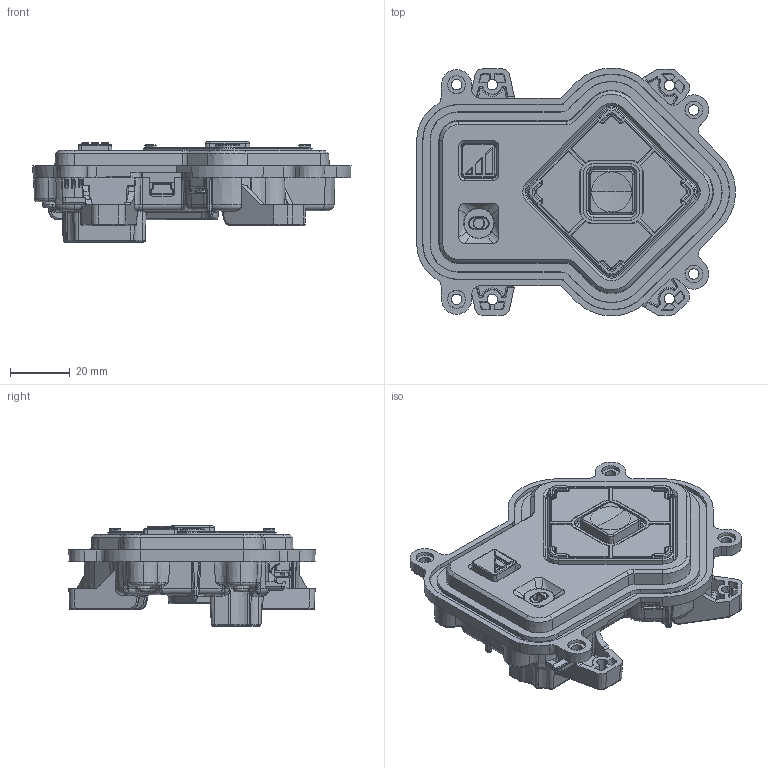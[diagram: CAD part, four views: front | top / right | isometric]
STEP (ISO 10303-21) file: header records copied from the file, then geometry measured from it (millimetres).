
FILE_DESCRIPTION (( 'STEP AP214' ), '1' );
FILE_NAME ('INP728_Issue3_External_Surfaces_Model_for_NCR_150209.STEP', '2015-02-09T12:36:52', ( '' ), ( '' ), 'SwSTEP 2.0', 'SolidWorks 2013', '' );
FILE_SCHEMA (( 'AUTOMOTIVE_DESIGN' ));
Length unit declared in the file: millimetre
Products named in the file (1): INP728_Issue3_External_Surfaces_Model_for_NCR_150209
Bounding box: 106.89 x 83.04 x 33.55 mm (x, y, z)
Surface area: 31248.7 mm2 (no closed solid volume)
Topology: 0 solids, 45 shells, 1457 faces, 4590 edges, 3099 vertices
Faces by surface type: plane 540, cylinder 278, bspline 256, cone 236, torus 103, sphere 44
Entity records: 74251 total; most frequent: CARTESIAN_POINT 21060, ORIENTED_EDGE 7754, DIRECTION 7042, EDGE_CURVE 4566, VERTEX_POINT 3099, AXIS2_PLACEMENT_3D 2385, VECTOR 2272, LINE 2272
